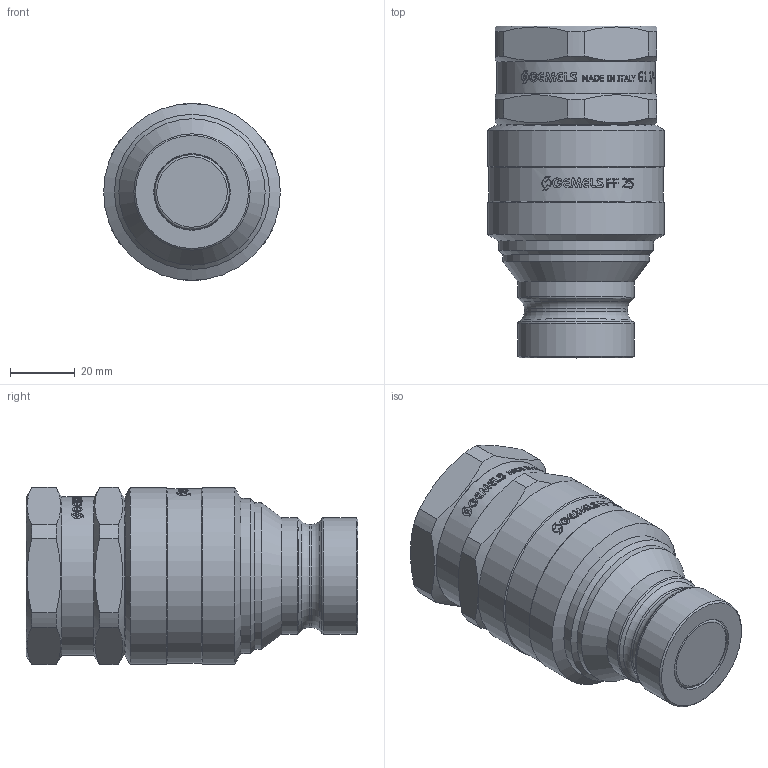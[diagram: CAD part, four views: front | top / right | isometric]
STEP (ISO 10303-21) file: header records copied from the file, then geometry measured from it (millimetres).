
FILE_DESCRIPTION(/* description */ (''),/* implementation_level */ '2;1');
FILE_NAME(/* name */ 'NC05G060000.stp',/* time_stamp */ '2026-03-18T09:49:41+01:00',/* author */ ('matteo.pellegrinelli'),/* organization */ (''),/* preprocessor_version */ 'ST-DEVELOPER v20',/* originating_system */ 'Autodesk Inventor 2024',/* authorisation */ '');
FILE_SCHEMA (('CONFIG_CONTROL_DESIGN'));
Length unit declared in the file: millimetre
Products named in the file (1): Parte7
Bounding box: 54.7 x 102.7 x 54.99 mm (x, y, z)
Volume: 157550.3 mm3; surface area: 23296.6 mm2
Topology: 1 solids, 1 shells, 1079 faces, 3080 edges, 2047 vertices
Faces by surface type: bspline 699, plane 286, cylinder 72, cone 16, torus 6
Full cylindrical faces by diameter (mm): 23.7 x1, 31.9 x1, 36 x2, 38.952 x1, 45.3 x1, 47.1 x1, 48 x1, 49 x1, 54 x1, 54.7 x2
Entity records: 46534 total; most frequent: CARTESIAN_POINT 21867, ORIENTED_EDGE 6160, EDGE_CURVE 3080, DIRECTION 2765, VERTEX_POINT 2047, B_SPLINE_CURVE_WITH_KNOTS 1444, LINE 1221, VECTOR 1221
